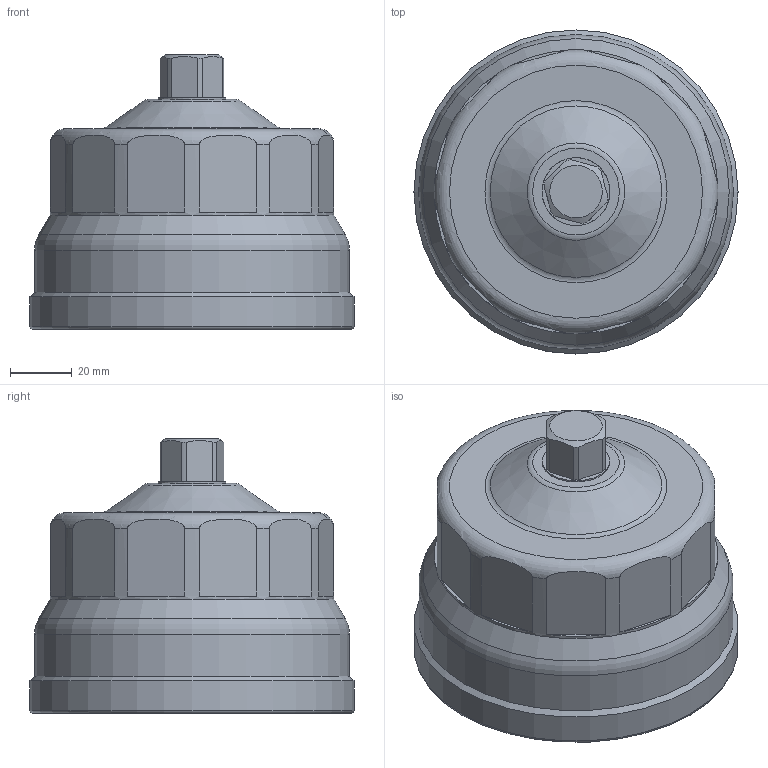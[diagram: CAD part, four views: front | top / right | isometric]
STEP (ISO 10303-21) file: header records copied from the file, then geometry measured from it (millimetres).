
FILE_DESCRIPTION(/* description */ ('Unknown','CAx-IF Rec.Pracs.---Representation and Presentation of Product Manufacturing Information (PMI)---4.0---2014-10-13','CAx-IF Rec.Pracs.---3D Tessellated Geometry---0.4---2014-09-14','2;1'),/* implementation_level */ '2;1');
FILE_NAME(/* name */ 'MCF-VA60',/* time_stamp */ '2023-09-20T12:14:44+02:00',/* author */ ('Unknown'),/* organization */ ('Unknown'),/* preprocessor_version */ 'ST-DEVELOPER v18.102',/* originating_system */ 'Solid Edge',/* authorisation */ 'Unknown');
FILE_SCHEMA (('AP242_MANAGED_MODEL_BASED_3D_ENGINEERING_MIM_LF { 1 0 10303 442 1 1 4 }'));
Length unit declared in the file: millimetre
Products named in the file (1): MCF-VA60_step_Vereinfachung
Bounding box: 105 x 105 x 89 mm (x, y, z)
Volume: 462848.3 mm3; surface area: 40997.3 mm2
Topology: 1 solids, 1 shells, 65 faces, 164 edges, 107 vertices
Faces by surface type: plane 38, cylinder 13, cone 7, torus 7
Full cylindrical faces by diameter (mm): 22 x1, 33.835 x1, 37 x1, 44 x1, 92 x1, 102 x1, 105 x1
Entity records: 2423 total; most frequent: CARTESIAN_POINT 503, DIRECTION 312, ORIENTED_EDGE 268, EDGE_CURVE 134, AXIS2_PLACEMENT_3D 129, VERTEX_POINT 98, EDGE_LOOP 92, FACE_BOUND 92
